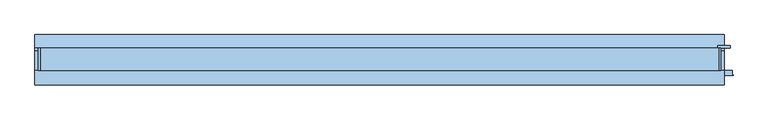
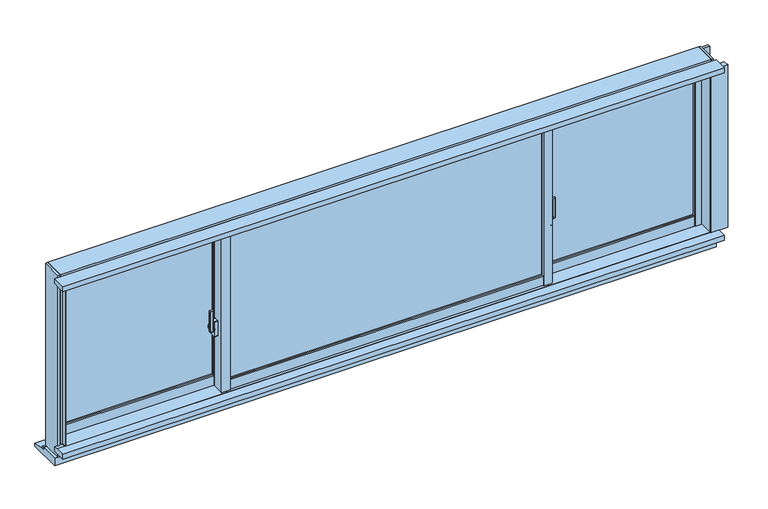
"""IFC4 building model written with IfcOpenShell, lengths in millimetres: window geometry, FNSⅡ100R_非防火_RC枠_単窓 : 両袖片引."""

from ifc_helpers import new_model, si_unit, point, frame, frame_2d, origin, place, context, project, spatial, polyline, circle_curve, trimmed, segment, composite_curve, outline, extrude, faceted_brep, source, transform, mapped, element, save
from ifc_brep_helpers import plane_surface, cylinder_surface, revolved_surface, advanced_brep


def window_a65863e0(model_context):
    return source(origin(), model_context, "Body", "SolidModel", [
        extrude(outline(polyline([(770.0, 27.0), (1468.0, 27.0), (1468.0, 21.0), (770.0, 21.0), (770.0, 27.0)])), frame((0.0, 0.0, 948.0), z_axis=(0.0, 0.0, 1.0), x_axis=(1.0, 0.0, 0.0)), (0.0, 0.0, 1.0), 712.0),
        extrude(outline(polyline([(770.0, 45.0), (1468.0, 45.0), (1468.0, 39.0), (770.0, 39.0), (770.0, 45.0)])), frame((0.0, 0.0, 948.0), z_axis=(0.0, 0.0, 1.0), x_axis=(1.0, 0.0, 0.0)), (0.0, 0.0, 1.0), 712.0),
        extrude(outline(composite_curve([segment(trimmed(circle_curve(frame_2d((791.0, -14.4)), 2.0), [point((789.0, -14.4))], [point((791.3606557, -12.4327869))], False, "CARTESIAN"), True, "CONTINUOUS"), segment(polyline([(791.3606557, -12.4327869), (802.3606557, -14.4494536)]), True, "CONTINUOUS"), segment(trimmed(circle_curve(frame_2d((802.0, -16.4166667)), 2.0), [point((802.3606557, -14.4494536))], [point((804.0, -16.4166667))], False, "CARTESIAN"), True, "CONTINUOUS"), segment(polyline([(804.0, -16.4166667), (804.0, -20.5833333)]), True, "CONTINUOUS"), segment(trimmed(circle_curve(frame_2d((802.0, -20.5833333)), 2.0), [point((804.0, -20.5833333))], [point((802.3606557, -22.5505464))], False, "CARTESIAN"), True, "CONTINUOUS"), segment(polyline([(802.3606557, -22.5505464), (791.3606557, -24.5672131)]), True, "CONTINUOUS"), segment(trimmed(circle_curve(frame_2d((791.0, -22.6)), 2.0), [point((791.3606557, -24.5672131))], [point((789.0, -22.6))], False, "CARTESIAN"), True, "CONTINUOUS"), segment(polyline([(789.0, -22.6), (789.0, -14.4)]), True, "CONTINUOUS")], self_intersect=False)), frame((0.0, 0.0, 1190.0), z_axis=(0.0, 0.0, 1.0), x_axis=(1.0, 0.0, 0.0)), (0.0, 0.0, 1.0), 100.0),
        advanced_brep(
        [(789.0, -12.3533883, 1179.3190372), (789.0, -13.5689255, 1186.2126915), (787.5, -13.5689255, 1186.2126915), (787.5, -12.092916, 1177.8418256), (795.5, -12.092916, 1177.8418256), (795.5, -12.3533883, 1179.3190372), (795.5, -10.1765715, 1221.7333311), (787.5, -10.1765715, 1221.7333311), (795.5, -10.5648001, 1220.2844424), (789.0, -10.5648001, 1220.2844424), (789.0, -12.3765334, 1213.5229616), (787.5, -12.3765334, 1213.5229616)],
        [
            (0, 1),
            (1, 2),
            (2, 3),
            (3, 4),
            (4, 5),
            (5, 0),
            (6, 4, circle_curve(frame((795.5, -16.0, 1200.0), z_axis=(-1.0, 0.0, 0.0), x_axis=(0.0, 0.25881904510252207, 0.965925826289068)), 22.5)),
            (3, 7, circle_curve(frame((787.5, -16.0, 1200.0), z_axis=(1.0, 0.0, 0.0), x_axis=(0.0, 0.25881904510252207, 0.965925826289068)), 22.5)),
            (7, 6),
            (8, 5, circle_curve(frame((795.5, -16.0, 1200.0), z_axis=(-1.0, 0.0, 0.0), x_axis=(0.0, 0.25881904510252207, 0.965925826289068)), 21.0)),
            (6, 8),
            (9, 0, circle_curve(frame((789.0, -16.0, 1200.0), z_axis=(-1.0, 0.0, 0.0), x_axis=(0.0, 0.25881904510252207, 0.965925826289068)), 21.0)),
            (8, 9),
            (9, 10),
            (10, 1, circle_curve(frame((789.0, -16.0, 1200.0), z_axis=(1.0, 0.0, 0.0), x_axis=(0.0, -1.0, 0.0)), 14.0)),
            (7, 11),
            (11, 10),
            (2, 11, circle_curve(frame((787.5, -16.0, 1200.0), z_axis=(-1.0, 0.0, 0.0), x_axis=(0.0, -1.0, 0.0)), 14.0)),
        ],
        [
            plane_surface(frame((793.5470497, -16.0, 1200.0), z_axis=(0.0, -0.9848077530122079, -0.17364817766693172), x_axis=(0.0, 0.17364817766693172, -0.9848077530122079))),
            cylinder_surface(frame((793.5470497, -16.0, 1200.0), z_axis=(1.0, 0.0, 0.0), x_axis=(0.0, 0.25881904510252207, 0.965925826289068)), 22.5),
            plane_surface(frame((795.5, -16.0, 1200.0), z_axis=(1.0, 0.0, 0.0), x_axis=(0.0, 0.25881904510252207, 0.965925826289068))),
            revolved_surface(polyline([(795.5, -10.564800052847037, 1220.2844423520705), (789.0, -10.564800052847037, 1220.2844423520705)]), (793.5470497, -16.0, 1200.0), (1.0, 0.0, 0.0)),
            plane_surface(frame((789.0, -16.0, 1200.0), z_axis=(1.0, 0.0, 0.0), x_axis=(0.0, 0.25881904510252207, 0.965925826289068))),
            plane_surface(frame((793.5470497, -16.0, 1200.0), z_axis=(0.0, -0.965925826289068, 0.25881904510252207), x_axis=(0.0, 0.25881904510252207, 0.965925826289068))),
            plane_surface(frame((787.5, -16.0, 1200.0), z_axis=(-1.0, 0.0, 0.0), x_axis=(0.0, 0.25881904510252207, 0.965925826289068))),
            cylinder_surface(frame((787.5, -16.0, 1200.0), z_axis=(1.0, 0.0, 0.0), x_axis=(0.0, -1.0, 0.0)), 14.0),
        ],
        [
            (0, [[1, 2, 3, 4, 5, 6]]),
            (1, [[7, -4, 8, 9]]),
            (2, [[10, -5, -7, 11]]),
            (3, [[12, -6, -10, 13]]),
            (4, [[14, 15, -1, -12]]),
            (5, [[16, 17, -14, -13, -11, -9]]),
            (6, [[-3, 18, -16, -8]]),
            (7, [[-17, -18, -2, -15]]),
        ],
    ),
        extrude(outline(composite_curve([segment(trimmed(circle_curve(frame_2d((-16.0, 1200.0)), 11.5), [point((-4.5, 1200.0))], [point((-27.5, 1200.0))], False, "CARTESIAN"), True, "CONTINUOUS"), segment(trimmed(circle_curve(frame_2d((-16.0, 1200.0)), 11.5), [point((-27.5, 1200.0))], [point((-4.5, 1200.0))], False, "CARTESIAN"), True, "CONTINUOUS")], self_intersect=False)), frame((785.0, 0.0, 0.0), z_axis=(1.0, 0.0, 0.0), x_axis=(0.0, 1.0, 0.0)), (0.0, 0.0, 1.0), 2.5),
        extrude(outline(composite_curve([segment(polyline([(-25.0, 1237.5), (-7.0, 1237.5)]), True, "CONTINUOUS"), segment(trimmed(circle_curve(frame_2d((-7.0, 1235.5)), 2.0), [point((-7.0, 1237.5))], [point((-5.0, 1235.5))], False, "CARTESIAN"), True, "CONTINUOUS"), segment(polyline([(-5.0, 1235.5), (-5.0, 1164.5)]), True, "CONTINUOUS"), segment(trimmed(circle_curve(frame_2d((-7.0, 1164.5)), 2.0), [point((-5.0, 1164.5))], [point((-7.0, 1162.5))], False, "CARTESIAN"), True, "CONTINUOUS"), segment(polyline([(-7.0, 1162.5), (-25.0, 1162.5)]), True, "CONTINUOUS"), segment(trimmed(circle_curve(frame_2d((-25.0, 1164.5)), 2.0), [point((-25.0, 1162.5))], [point((-27.0, 1164.5))], False, "CARTESIAN"), True, "CONTINUOUS"), segment(polyline([(-27.0, 1164.5), (-27.0, 1235.5)]), True, "CONTINUOUS"), segment(trimmed(circle_curve(frame_2d((-25.0, 1235.5)), 2.0), [point((-27.0, 1235.5))], [point((-25.0, 1237.5))], False, "CARTESIAN"), True, "CONTINUOUS")], self_intersect=False)), frame((770.0, 0.0, 0.0), z_axis=(1.0, 0.0, 0.0), x_axis=(0.0, 1.0, 0.0)), (0.0, 0.0, 1.0), 15.0),
        extrude(outline(composite_curve([segment(polyline([(-789.0, -14.4), (-789.0, -22.6)]), True, "CONTINUOUS"), segment(trimmed(circle_curve(frame_2d((-791.0, -22.6)), 2.0), [point((-789.0, -22.6))], [point((-791.3606557, -24.5672131))], False, "CARTESIAN"), True, "CONTINUOUS"), segment(polyline([(-791.3606557, -24.5672131), (-802.3606557, -22.5505464)]), True, "CONTINUOUS"), segment(trimmed(circle_curve(frame_2d((-802.0, -20.5833333)), 2.0), [point((-802.3606557, -22.5505464))], [point((-804.0, -20.5833333))], False, "CARTESIAN"), True, "CONTINUOUS"), segment(polyline([(-804.0, -20.5833333), (-804.0, -16.4166667)]), True, "CONTINUOUS"), segment(trimmed(circle_curve(frame_2d((-802.0, -16.4166667)), 2.0), [point((-804.0, -16.4166667))], [point((-802.3606557, -14.4494536))], False, "CARTESIAN"), True, "CONTINUOUS"), segment(polyline([(-802.3606557, -14.4494536), (-791.3606557, -12.4327869)]), True, "CONTINUOUS"), segment(trimmed(circle_curve(frame_2d((-791.0, -14.4)), 2.0), [point((-791.3606557, -12.4327869))], [point((-789.0, -14.4))], False, "CARTESIAN"), True, "CONTINUOUS")], self_intersect=False)), frame((0.0, 0.0, 1190.0), z_axis=(0.0, 0.0, 1.0), x_axis=(1.0, 0.0, 0.0)), (0.0, 0.0, 1.0), 100.0),
        advanced_brep(
        [(-789.0, -12.3533883, 1179.3190372), (-795.5, -12.3533883, 1179.3190372), (-795.5, -12.092916, 1177.8418256), (-787.5, -12.092916, 1177.8418256), (-787.5, -13.5689255, 1186.2126915), (-789.0, -13.5689255, 1186.2126915), (-795.5, -10.5648001, 1220.2844424), (-795.5, -10.1765715, 1221.7333311), (-787.5, -10.1765715, 1221.7333311), (-787.5, -12.3765334, 1213.5229616), (-789.0, -10.5648001, 1220.2844424), (-789.0, -12.3765334, 1213.5229616)],
        [
            (0, 1),
            (1, 2),
            (2, 3),
            (3, 4),
            (4, 5),
            (5, 0),
            (6, 7),
            (7, 2, circle_curve(frame((-795.5, -16.0, 1200.0), z_axis=(-1.0, 0.0, 0.0), x_axis=(0.0, 0.25881904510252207, 0.965925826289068)), 22.5)),
            (1, 6, circle_curve(frame((-795.5, -16.0, 1200.0), z_axis=(1.0, 0.0, 0.0), x_axis=(0.0, 0.25881904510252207, 0.965925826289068)), 21.0)),
            (3, 8, circle_curve(frame((-787.5, -16.0, 1200.0), z_axis=(1.0, 0.0, 0.0), x_axis=(0.0, 0.25881904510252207, 0.965925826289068)), 22.5)),
            (8, 9),
            (9, 4, circle_curve(frame((-787.5, -16.0, 1200.0), z_axis=(1.0, 0.0, 0.0), x_axis=(0.0, -1.0, 0.0)), 14.0)),
            (8, 7),
            (6, 10),
            (10, 11),
            (11, 9),
            (0, 10, circle_curve(frame((-789.0, -16.0, 1200.0), z_axis=(1.0, 0.0, 0.0), x_axis=(0.0, 0.25881904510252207, 0.965925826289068)), 21.0)),
            (5, 11, circle_curve(frame((-789.0, -16.0, 1200.0), z_axis=(-1.0, 0.0, 0.0), x_axis=(0.0, -1.0, 0.0)), 14.0)),
        ],
        [
            plane_surface(frame((-793.5470497, -16.0, 1200.0), z_axis=(0.0, -0.9848077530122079, -0.17364817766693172), x_axis=(0.0, 0.17364817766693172, -0.9848077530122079))),
            plane_surface(frame((-795.5, -16.0, 1200.0), z_axis=(-1.0, 0.0, 0.0), x_axis=(0.0, 0.25881904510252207, 0.965925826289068))),
            plane_surface(frame((-787.5, -16.0, 1200.0), z_axis=(1.0, 0.0, 0.0), x_axis=(0.0, 0.25881904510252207, 0.965925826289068))),
            plane_surface(frame((-793.5470497, -16.0, 1200.0), z_axis=(0.0, -0.965925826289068, 0.25881904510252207), x_axis=(0.0, 0.25881904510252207, 0.965925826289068))),
            cylinder_surface(frame((-793.5470497, -16.0, 1200.0), z_axis=(-1.0, 0.0, 0.0), x_axis=(0.0, 0.25881904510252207, 0.965925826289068)), 22.5),
            revolved_surface(polyline([(-795.5, -10.564800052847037, 1220.2844423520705), (-789.0, -10.564800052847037, 1220.2844423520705)]), (-793.5470497, -16.0, 1200.0), (-1.0, 0.0, 0.0)),
            plane_surface(frame((-789.0, -16.0, 1200.0), z_axis=(-1.0, 0.0, 0.0), x_axis=(0.0, 0.25881904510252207, 0.965925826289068))),
            cylinder_surface(frame((-787.5, -16.0, 1200.0), z_axis=(-1.0, 0.0, 0.0), x_axis=(0.0, -1.0, 0.0)), 14.0),
        ],
        [
            (0, [[1, 2, 3, 4, 5, 6]]),
            (1, [[7, 8, -2, 9]]),
            (2, [[10, 11, 12, -4]]),
            (3, [[13, -7, 14, 15, 16, -11]]),
            (4, [[-13, -10, -3, -8]]),
            (5, [[-14, -9, -1, 17]]),
            (6, [[-17, -6, 18, -15]]),
            (7, [[-18, -5, -12, -16]]),
        ],
    ),
        extrude(outline(composite_curve([segment(trimmed(circle_curve(frame_2d((-16.0, 1200.0)), 11.5), [point((-4.5, 1200.0))], [point((-27.5, 1200.0))], False, "CARTESIAN"), True, "CONTINUOUS"), segment(trimmed(circle_curve(frame_2d((-16.0, 1200.0)), 11.5), [point((-27.5, 1200.0))], [point((-4.5, 1200.0))], False, "CARTESIAN"), True, "CONTINUOUS")], self_intersect=False)), frame((-787.5, 0.0, 0.0), z_axis=(1.0, 0.0, 0.0), x_axis=(0.0, 1.0, 0.0)), (0.0, 0.0, 1.0), 2.5),
        extrude(outline(composite_curve([segment(polyline([(-25.0, 1237.5), (-7.0, 1237.5)]), True, "CONTINUOUS"), segment(trimmed(circle_curve(frame_2d((-7.0, 1235.5)), 2.0), [point((-7.0, 1237.5))], [point((-5.0, 1235.5))], False, "CARTESIAN"), True, "CONTINUOUS"), segment(polyline([(-5.0, 1235.5), (-5.0, 1164.5)]), True, "CONTINUOUS"), segment(trimmed(circle_curve(frame_2d((-7.0, 1164.5)), 2.0), [point((-5.0, 1164.5))], [point((-7.0, 1162.5))], False, "CARTESIAN"), True, "CONTINUOUS"), segment(polyline([(-7.0, 1162.5), (-25.0, 1162.5)]), True, "CONTINUOUS"), segment(trimmed(circle_curve(frame_2d((-25.0, 1164.5)), 2.0), [point((-25.0, 1162.5))], [point((-27.0, 1164.5))], False, "CARTESIAN"), True, "CONTINUOUS"), segment(polyline([(-27.0, 1164.5), (-27.0, 1235.5)]), True, "CONTINUOUS"), segment(trimmed(circle_curve(frame_2d((-25.0, 1235.5)), 2.0), [point((-27.0, 1235.5))], [point((-25.0, 1237.5))], False, "CARTESIAN"), True, "CONTINUOUS")], self_intersect=False)), frame((-785.0, 0.0, 0.0), z_axis=(1.0, 0.0, 0.0), x_axis=(0.0, 1.0, 0.0)), (0.0, 0.0, 1.0), 15.0),
        extrude(outline(polyline([(-730.0, -31.0), (730.0, -31.0), (730.0, -37.0), (-730.0, -37.0), (-730.0, -31.0)])), frame((0.0, 0.0, 948.0), z_axis=(0.0, 0.0, 1.0), x_axis=(1.0, 0.0, 0.0)), (0.0, 0.0, 1.0), 712.0),
        extrude(outline(polyline([(-730.0, -13.0), (730.0, -13.0), (730.0, -19.0), (-730.0, -19.0), (-730.0, -13.0)])), frame((0.0, 0.0, 948.0), z_axis=(0.0, 0.0, 1.0), x_axis=(1.0, 0.0, 0.0)), (0.0, 0.0, 1.0), 712.0),
        extrude(outline(polyline([(-1468.0, 27.0), (-770.0, 27.0), (-770.0, 21.0), (-1468.0, 21.0), (-1468.0, 27.0)])), frame((0.0, 0.0, 948.0), z_axis=(0.0, 0.0, 1.0), x_axis=(1.0, 0.0, 0.0)), (0.0, 0.0, 1.0), 712.0),
        extrude(outline(polyline([(-1468.0, 45.0), (-770.0, 45.0), (-770.0, 39.0), (-1468.0, 39.0), (-1468.0, 45.0)])), frame((0.0, 0.0, 948.0), z_axis=(0.0, 0.0, 1.0), x_axis=(1.0, 0.0, 0.0)), (0.0, 0.0, 1.0), 712.0),
        faceted_brep([(-1500.0, 24.0, 1700.0), (-1489.5, 24.0, 1700.0), (-1489.5, 11.0, 1700.0), (-1468.0, 11.0, 1700.0), (-1468.0, 53.0, 1700.0), (-1500.0, 53.0, 1700.0), (-1500.0, 24.0, 860.0), (-1468.0, 24.0, 860.0), (-1468.0, 24.0, 900.0), (-1489.5, 24.0, 900.0), (-1500.0, 53.0, 860.0), (-1468.0, 53.0, 860.0), (-1489.5, 11.0, 900.0), (-1468.0, 11.0, 900.0)], [[[0, 1, 2, 3, 4, 5]], [[1, 0, 6, 7, 8, 9]], [[7, 6, 10, 11]], [[2, 1, 9, 12]], [[3, 2, 12, 13]], [[4, 3, 13, 8, 7, 11]], [[5, 4, 11, 10]], [[6, 0, 5, 10]], [[9, 8, 13, 12]]]),
        faceted_brep([(1500.0, 24.0, 1700.0), (1500.0, 53.0, 1700.0), (1468.0, 53.0, 1700.0), (1468.0, 11.0, 1700.0), (1489.5, 11.0, 1700.0), (1489.5, 24.0, 1700.0), (1489.5, 11.0, 860.0), (1489.5, 24.0, 860.0), (1500.0, 24.0, 860.0), (1468.0, 11.0, 860.0), (1468.0, 24.0, 860.0), (1468.0, 53.0, 860.0), (1500.0, 53.0, 860.0), (1468.0, 11.0, 900.0)], [[[0, 1, 2, 3, 4, 5]], [[5, 4, 6, 7]], [[8, 7, 6, 9, 10, 11, 12]], [[1, 0, 8, 12]], [[2, 1, 12, 11]], [[3, 2, 11, 10, 9, 13]], [[4, 3, 13, 9, 6]], [[0, 5, 7, 8]]]),
        faceted_brep([(-751.8, 10.5, 1700.0), (-770.0, 10.5, 1700.0), (-770.0, 10.5, 900.0), (-751.8, 10.5, 900.0), (-751.8, -1.9, 1700.0), (-751.8, -1.9, 900.0), (-730.0, 24.0, 900.0), (-770.0, 24.0, 900.0), (-770.0, 24.0, 860.0), (-730.0, 24.0, 860.0), (-730.0, -1.9, 1700.0), (-730.0, 53.0, 1700.0), (-770.0, 53.0, 1700.0), (-770.0, 53.0, 860.0), (-730.0, 53.0, 860.0), (-730.0, -1.9, 900.0)], [[[0, 1, 2, 3]], [[4, 0, 3, 5]], [[6, 7, 8, 9]], [[1, 0, 4, 10, 11, 12]], [[13, 14, 9, 8]], [[10, 4, 5, 15]], [[11, 10, 15, 6, 9, 14]], [[12, 11, 14, 13]], [[1, 12, 13, 8, 7, 2]], [[7, 6, 15, 5, 3, 2]]]),
        faceted_brep([(770.0, 24.0, 900.0), (730.0, 24.0, 900.0), (730.0, 24.0, 860.0), (770.0, 24.0, 860.0), (770.0, 53.0, 1700.0), (770.0, 10.5, 1700.0), (770.0, 10.5, 900.0), (770.0, 53.0, 860.0), (730.0, 53.0, 1700.0), (730.0, 53.0, 860.0), (730.0, -1.9, 1700.0), (751.8, -1.9, 1700.0), (751.8, 10.5, 1700.0), (751.8, 10.5, 900.0), (751.8, -1.9, 900.0), (730.0, -1.9, 900.0)], [[[0, 1, 2, 3]], [[4, 5, 6, 0, 3, 7]], [[8, 4, 7, 9]], [[5, 4, 8, 10, 11, 12]], [[9, 7, 3, 2]], [[1, 0, 6, 13, 14, 15]], [[10, 8, 9, 2, 1, 15]], [[11, 10, 15, 14]], [[12, 11, 14, 13]], [[5, 12, 13, 6]]]),
        extrude(outline(polyline([(-770.0, -1.9), (-765.0, -1.9), (-765.0, -47.0), (-735.0, -47.0), (-735.0, -43.0), (-730.0, -43.0), (-730.0, -55.0), (-770.0, -55.0), (-770.0, -1.9)])), frame((0.0, 0.0, 900.0), z_axis=(0.0, 0.0, 1.0), x_axis=(1.0, 0.0, 0.0)), (0.0, 0.0, 1.0), 800.0),
        extrude(outline(polyline([(770.0, -1.9), (770.0, -55.0), (730.0, -55.0), (730.0, -43.0), (735.0, -43.0), (735.0, -47.0), (765.0, -47.0), (765.0, -1.9), (770.0, -1.9)])), frame((0.0, 0.0, 900.0), z_axis=(0.0, 0.0, 1.0), x_axis=(1.0, 0.0, 0.0)), (0.0, 0.0, 1.0), 800.0),
        extrude(outline(polyline([(-765.0, -1.9), (-730.0, -1.9), (-730.0, -43.0), (-735.0, -43.0), (-735.0, -47.0), (-765.0, -47.0), (-765.0, -1.9)])), frame((0.0, 0.0, 900.0), z_axis=(0.0, 0.0, 1.0), x_axis=(1.0, 0.0, 0.0)), (0.0, 0.0, 1.0), 800.0),
        extrude(outline(polyline([(765.0, -1.9), (765.0, -47.0), (735.0, -47.0), (735.0, -43.0), (730.0, -43.0), (730.0, -1.9), (765.0, -1.9)])), frame((0.0, 0.0, 900.0), z_axis=(0.0, 0.0, 1.0), x_axis=(1.0, 0.0, 0.0)), (0.0, 0.0, 1.0), 800.0),
        extrude(outline(polyline([(-751.8, 10.5), (-751.8, 3.0), (-770.0, 3.0), (-770.0, 10.5), (-751.8, 10.5)])), frame((0.0, 0.0, 900.0), z_axis=(0.0, 0.0, 1.0), x_axis=(1.0, 0.0, 0.0)), (0.0, 0.0, 1.0), 800.0),
        extrude(outline(polyline([(751.8, 10.5), (770.0, 10.5), (770.0, 3.0), (751.8, 3.0), (751.8, 10.5)])), frame((0.0, 0.0, 900.0), z_axis=(0.0, 0.0, 1.0), x_axis=(1.0, 0.0, 0.0)), (0.0, 0.0, 1.0), 800.0),
        extrude(outline(polyline([(-1497.0, 24.0), (-1489.5, 24.0), (-1489.5, 11.0), (-1468.0, 11.0), (-1468.0, 3.0), (-1497.0, 3.0), (-1497.0, 24.0)])), frame((0.0, 0.0, 900.0), z_axis=(0.0, 0.0, 1.0), x_axis=(1.0, 0.0, 0.0)), (0.0, 0.0, 1.0), 800.0),
        extrude(outline(polyline([(1497.0, 24.0), (1497.0, 3.0), (1468.0, 3.0), (1468.0, 11.0), (1489.5, 11.0), (1489.5, 24.0), (1497.0, 24.0)])), frame((0.0, 0.0, 900.0), z_axis=(0.0, 0.0, 1.0), x_axis=(1.0, 0.0, 0.0)), (0.0, 0.0, 1.0), 800.0),
        extrude(outline(polyline([(5.0, 948.0), (13.0, 948.0), (13.0, 925.5), (24.0, 925.5), (24.0, 900.0), (5.0, 900.0), (5.0, 948.0)])), frame((770.0, 0.0, 0.0), z_axis=(1.0, 0.0, 0.0), x_axis=(0.0, 1.0, 0.0)), (0.0, 0.0, 1.0), 698.0),
        extrude(outline(polyline([(53.0, 860.0), (24.0, 860.0), (24.0, 925.5), (13.0, 925.5), (13.0, 948.0), (53.0, 948.0), (53.0, 860.0)])), frame((770.0, 0.0, 0.0), z_axis=(1.0, 0.0, 0.0), x_axis=(0.0, 1.0, 0.0)), (0.0, 0.0, 1.0), 698.0),
        extrude(outline(polyline([(-53.0, 903.0), (-53.0, 948.0), (-45.0, 948.0), (-45.0, 925.5), (-34.0, 925.5), (-34.0, 903.0), (-53.0, 903.0)])), frame((-730.0, 0.0, 0.0), z_axis=(1.0, 0.0, 0.0), x_axis=(0.0, 1.0, 0.0)), (0.0, 0.0, 1.0), 1460.0),
        extrude(outline(polyline([(-5.0, 900.0), (-34.0, 900.0), (-34.0, 925.5), (-45.0, 925.5), (-45.0, 948.0), (-5.0, 948.0), (-5.0, 900.0)])), frame((-730.0, 0.0, 0.0), z_axis=(1.0, 0.0, 0.0), x_axis=(0.0, 1.0, 0.0)), (0.0, 0.0, 1.0), 1460.0),
        extrude(outline(polyline([(5.0, 948.0), (13.0, 948.0), (13.0, 925.5), (24.0, 925.5), (24.0, 900.0), (5.0, 900.0), (5.0, 948.0)])), frame((-1468.0, 0.0, 0.0), z_axis=(1.0, 0.0, 0.0), x_axis=(0.0, 1.0, 0.0)), (0.0, 0.0, 1.0), 698.0),
        extrude(outline(polyline([(53.0, 860.0), (24.0, 860.0), (24.0, 925.5), (13.0, 925.5), (13.0, 948.0), (53.0, 948.0), (53.0, 860.0)])), frame((-1468.0, 0.0, 0.0), z_axis=(1.0, 0.0, 0.0), x_axis=(0.0, 1.0, 0.0)), (0.0, 0.0, 1.0), 698.0),
        extrude(outline(polyline([(53.0, 1700.0), (53.0, 1660.0), (13.0, 1660.0), (13.0, 1680.5), (26.0, 1680.5), (26.0, 1700.0), (53.0, 1700.0)])), frame((770.0, 0.0, 0.0), z_axis=(1.0, 0.0, 0.0), x_axis=(0.0, 1.0, 0.0)), (0.0, 0.0, 1.0), 698.0),
        extrude(outline(polyline([(26.0, 1680.5), (13.0, 1680.5), (13.0, 1660.0), (5.0, 1660.0), (5.0, 1700.0), (26.0, 1700.0), (26.0, 1680.5)])), frame((770.0, 0.0, 0.0), z_axis=(1.0, 0.0, 0.0), x_axis=(0.0, 1.0, 0.0)), (0.0, 0.0, 1.0), 698.0),
        extrude(outline(polyline([(-32.0, 1680.5), (-45.0, 1680.5), (-45.0, 1660.0), (-53.0, 1660.0), (-53.0, 1700.0), (-32.0, 1700.0), (-32.0, 1680.5)])), frame((-730.0, 0.0, 0.0), z_axis=(1.0, 0.0, 0.0), x_axis=(0.0, 1.0, 0.0)), (0.0, 0.0, 1.0), 1460.0),
        extrude(outline(polyline([(-5.0, 1700.0), (-5.0, 1660.0), (-45.0, 1660.0), (-45.0, 1680.5), (-32.0, 1680.5), (-32.0, 1700.0), (-5.0, 1700.0)])), frame((-730.0, 0.0, 0.0), z_axis=(1.0, 0.0, 0.0), x_axis=(0.0, 1.0, 0.0)), (0.0, 0.0, 1.0), 1460.0),
        extrude(outline(polyline([(26.0, 1680.5), (13.0, 1680.5), (13.0, 1660.0), (5.0, 1660.0), (5.0, 1700.0), (26.0, 1700.0), (26.0, 1680.5)])), frame((-1468.0, 0.0, 0.0), z_axis=(1.0, 0.0, 0.0), x_axis=(0.0, 1.0, 0.0)), (0.0, 0.0, 1.0), 698.0),
        extrude(outline(polyline([(53.0, 1700.0), (53.0, 1660.0), (13.0, 1660.0), (13.0, 1680.5), (26.0, 1680.5), (26.0, 1700.0), (53.0, 1700.0)])), frame((-1468.0, 0.0, 0.0), z_axis=(1.0, 0.0, 0.0), x_axis=(0.0, 1.0, 0.0)), (0.0, 0.0, 1.0), 698.0),
        faceted_brep([(-747.5, -36.0, 900.0), (-747.5, -7.7, 900.0), (-747.5, -7.7, 884.0), (-747.5, -36.0, 884.0), (1515.0, 55.0, 840.0), (1515.0, 55.0, 849.0), (1515.0, 21.0, 849.0), (1515.0, 21.0, 884.0), (1515.0, -45.0, 884.0), (1515.0, -45.0, 840.0), (-1515.0, -45.0, 884.0), (-1515.0, -45.0, 840.0), (-1515.0, 55.0, 840.0), (-1515.0, 55.0, 849.0), (-1515.0, 21.0, 884.0), (747.5, -7.7, 884.0), (747.5, -36.0, 884.0), (-1515.0, 21.0, 849.0), (747.5, -36.0, 900.0), (747.5, -7.7, 900.0)], [[[0, 1, 2, 3]], [[4, 5, 6, 7, 8, 9]], [[9, 8, 10, 11]], [[5, 4, 12, 13]], [[8, 7, 14, 10], [15, 16, 3, 2]], [[7, 6, 17, 14]], [[6, 5, 13, 17]], [[4, 9, 11, 12]], [[12, 11, 10, 14, 17, 13]], [[18, 16, 15, 19]], [[16, 18, 0, 3]], [[19, 15, 2, 1]], [[18, 19, 1, 0]]]),
        extrude(outline(polyline([(-36.0, 884.0), (-45.0, 884.0), (-45.0, 897.0), (-65.0, 897.0), (-65.0, 900.0), (-36.0, 900.0), (-36.0, 884.0)])), frame((-747.5, 0.0, 0.0), z_axis=(1.0, 0.0, 0.0), x_axis=(0.0, 1.0, 0.0)), (0.0, 0.0, 1.0), 1495.0),
        extrude(outline(polyline([(-45.0, 884.0), (-45.0, 897.0), (-65.0, 897.0), (-65.0, 900.0), (21.0, 900.0), (21.0, 884.0), (-45.0, 884.0)])), frame((747.5, 0.0, 0.0), z_axis=(1.0, 0.0, 0.0), x_axis=(0.0, 1.0, 0.0)), (0.0, 0.0, 1.0), 752.5),
        extrude(outline(polyline([(-45.0, 884.0), (-45.0, 897.0), (-65.0, 897.0), (-65.0, 900.0), (21.0, 900.0), (21.0, 884.0), (-45.0, 884.0)])), frame((-1503.0, 0.0, 0.0), z_axis=(1.0, 0.0, 0.0), x_axis=(0.0, 1.0, 0.0)), (0.0, 0.0, 1.0), 755.5),
        faceted_brep([(1515.0, 55.0, 1700.0), (1515.0, 55.0, 1735.0), (1515.0, -45.0, 1735.0), (1515.0, -45.0, 1725.0), (1515.0, 25.3, 1725.0), (1515.0, 25.3, 1700.0), (-1515.0, 55.0, 1700.0), (-1515.0, 25.3, 1700.0), (-1515.0, 25.3, 1725.0), (-1515.0, -45.0, 1725.0), (-1515.0, -45.0, 1735.0), (-1515.0, 55.0, 1735.0), (-747.5, 25.3, 1725.0), (-747.5, -32.0, 1725.0), (747.5, -32.0, 1725.0), (747.5, 25.3, 1725.0), (747.5, 25.3, 1700.0), (-747.5, 25.3, 1700.0), (747.5, -32.0, 1700.0), (-747.5, -32.0, 1700.0)], [[[0, 1, 2, 3, 4, 5]], [[6, 7, 8, 9, 10, 11]], [[4, 3, 9, 8, 12, 13, 14, 15]], [[5, 4, 15, 16]], [[8, 7, 17, 12]], [[0, 5, 16, 18, 19, 17, 7, 6]], [[1, 0, 6, 11]], [[2, 1, 11, 10]], [[3, 2, 10, 9]], [[14, 18, 16, 15]], [[17, 19, 13, 12]], [[18, 14, 13, 19]]]),
        extrude(outline(polyline([(-32.0, 1725.0), (-32.0, 1700.0), (-65.0, 1700.0), (-65.0, 1703.0), (-45.0, 1703.0), (-45.0, 1725.0), (-32.0, 1725.0)])), frame((-747.5, 0.0, 0.0), z_axis=(1.0, 0.0, 0.0), x_axis=(0.0, 1.0, 0.0)), (0.0, 0.0, 1.0), 1495.0),
        extrude(outline(polyline([(25.3, 1700.0), (-65.0, 1700.0), (-65.0, 1703.0), (-45.0, 1703.0), (-45.0, 1725.0), (25.3, 1725.0), (25.3, 1700.0)])), frame((747.5, 0.0, 0.0), z_axis=(1.0, 0.0, 0.0), x_axis=(0.0, 1.0, 0.0)), (0.0, 0.0, 1.0), 752.5),
        extrude(outline(polyline([(25.3, 1700.0), (-65.0, 1700.0), (-65.0, 1703.0), (-45.0, 1703.0), (-45.0, 1725.0), (25.3, 1725.0), (25.3, 1700.0)])), frame((-1500.0, 0.0, 0.0), z_axis=(1.0, 0.0, 0.0), x_axis=(0.0, 1.0, 0.0)), (0.0, 0.0, 1.0), 752.5),
        faceted_brep([(1500.0, -45.0, 1720.0), (1515.0, -45.0, 1720.0), (1515.0, 21.0, 1720.0), (1500.0, 21.0, 1720.0), (1500.0, -65.0, 900.0), (1503.0, -65.0, 900.0), (1503.0, -65.0, 1703.0), (1500.0, -65.0, 1703.0), (1500.0, 21.0, 900.0), (1515.0, 21.0, 900.0), (1515.0, -45.0, 900.0), (1503.0, -45.0, 900.0), (1503.0, -45.0, 1703.0), (1500.0, -45.0, 1703.0)], [[[0, 1, 2, 3]], [[4, 5, 6, 7]], [[4, 8, 9, 10, 11, 5]], [[5, 11, 12, 6]], [[0, 13, 12, 11, 10, 1]], [[2, 1, 10, 9]], [[3, 2, 9, 8]], [[8, 4, 7, 13, 0, 3]], [[12, 13, 7, 6]]]),
        faceted_brep([(-1515.0, -45.0, 900.0), (-1503.0, -45.0, 900.0), (-1503.0, -45.0, 1703.0), (-1500.0, -45.0, 1703.0), (-1500.0, -45.0, 1720.0), (-1515.0, -45.0, 1720.0), (-1503.0, -65.0, 900.0), (-1500.0, -65.0, 900.0), (-1500.0, -65.0, 1703.0), (-1503.0, -65.0, 1703.0), (-1500.0, 21.0, 1720.0), (-1515.0, 21.0, 1720.0), (-1515.0, 21.0, 900.0), (-1500.0, 21.0, 900.0)], [[[0, 1, 2, 3, 4, 5]], [[6, 7, 8, 9]], [[5, 4, 10, 11]], [[0, 12, 13, 7, 6, 1]], [[1, 6, 9, 2]], [[7, 13, 10, 4, 3, 8]], [[11, 10, 13, 12]], [[0, 5, 11, 12]], [[3, 2, 9, 8]]]),
        faceted_brep([(-1525.0, 55.0, 1735.0), (-1515.0, 55.0, 1735.0), (-1515.0, 55.0, 1700.0), (-1500.0, 55.0, 1700.0), (-1500.0, 55.0, 849.0), (-1515.0, 55.0, 849.0), (-1515.0, 55.0, 840.0), (-1525.0, 55.0, 840.0), (-1525.0, -45.0, 1735.0), (-1515.0, -45.0, 1735.0), (-1515.0, -45.0, 840.0), (-1525.0, -45.0, 840.0), (-1515.0, 21.0, 849.0), (-1515.0, 21.0, 1700.0), (-1500.0, 21.0, 1700.0), (-1500.0, 21.0, 849.0)], [[[0, 1, 2, 3, 4, 5, 6, 7]], [[0, 8, 9, 1]], [[7, 6, 10, 11]], [[8, 0, 7, 11]], [[9, 8, 11, 10]], [[1, 9, 10, 6, 5, 12, 13, 2]], [[3, 2, 13, 14]], [[4, 15, 12, 5]], [[14, 13, 12, 15]], [[3, 14, 15, 4]]]),
        faceted_brep([(1515.0, 21.0, 1700.0), (1500.0, 21.0, 1700.0), (1500.0, 21.0, 849.0), (1515.0, 21.0, 849.0), (1515.0, -45.0, 1735.0), (1525.0, -45.0, 1735.0), (1525.0, 55.0, 1735.0), (1515.0, 55.0, 1735.0), (1515.0, -45.0, 840.0), (1515.0, 55.0, 840.0), (1525.0, 55.0, 840.0), (1525.0, -45.0, 840.0), (1500.0, 55.0, 1700.0), (1500.0, 55.0, 849.0), (1515.0, 55.0, 1700.0), (1515.0, 55.0, 849.0)], [[[0, 1, 2, 3]], [[4, 5, 6, 7]], [[8, 9, 10, 11]], [[1, 12, 13, 2]], [[1, 0, 14, 12]], [[2, 13, 15, 3]], [[5, 4, 8, 11]], [[6, 5, 11, 10]], [[7, 6, 10, 9, 15, 13, 12, 14]], [[4, 7, 14, 0, 3, 15, 9, 8]]]),
        extrude(outline(polyline([(-110.0, 900.0), (-65.0, 900.0), (-65.0, 897.0), (-45.0, 897.0), (-45.0, 875.0), (-110.0, 875.0), (-110.0, 900.0)])), frame((-1540.0, 0.0, 0.0), z_axis=(1.0, 0.0, 0.0), x_axis=(0.0, 1.0, 0.0)), (0.0, 0.0, 1.0), 3080.0),
        extrude(outline(polyline([(45.0, 840.0), (55.0, 840.0), (55.0, 828.4285714), (45.0, 830.0), (45.0, 840.0)])), frame((-1540.0, 0.0, 0.0), z_axis=(1.0, 0.0, 0.0), x_axis=(0.0, 1.0, 0.0)), (0.0, 0.0, 1.0), 3080.0),
        extrude(outline(polyline([(-45.0, 804.0), (-45.0, 840.0), (45.0, 840.0), (45.0, 830.0), (115.0, 819.0), (115.0, 804.0), (-45.0, 804.0)])), frame((-1540.0, 0.0, 0.0), z_axis=(1.0, 0.0, 0.0), x_axis=(0.0, 1.0, 0.0)), (0.0, 0.0, 1.0), 3080.0),
        extrude(outline(polyline([(1503.0, -65.0), (1503.0, -45.0), (1577.0, -45.0), (1577.0, -65.0), (1580.0, -65.0), (1580.0, -67.5), (1500.0, -67.5), (1500.0, -65.0), (1503.0, -65.0)])), frame((0.0, 0.0, 900.0), z_axis=(0.0, 0.0, 1.0), x_axis=(1.0, 0.0, 0.0)), (0.0, 0.0, 1.0), 800.0),
        extrude(outline(polyline([(1567.5, 55.0), (1512.5, 55.0), (1512.5, 67.0), (1567.5, 67.0), (1567.5, 55.0)])), frame((0.0, 0.0, 840.0), z_axis=(0.0, 0.0, 1.0), x_axis=(1.0, 0.0, 0.0)), (0.0, 0.0, 1.0), 880.0),
        extrude(outline(polyline([(-110.0, 1725.0), (-45.0, 1725.0), (-45.0, 1703.0), (-65.0, 1703.0), (-65.0, 1700.0), (-110.0, 1700.0), (-110.0, 1725.0)])), frame((-1540.0, 0.0, 0.0), z_axis=(1.0, 0.0, 0.0), x_axis=(0.0, 1.0, 0.0)), (0.0, 0.0, 1.0), 3080.0),
    ])


if __name__ == "__main__":
    model = new_model("IFC4")
    model_context = context("Model", 3, world=origin())
    ifc_project = project(units=[si_unit("LENGTHUNIT", "METRE", prefix="MILLI")], contexts=[model_context])
    site = spatial("IfcSite", under=ifc_project)
    building = spatial("IfcBuilding", under=site)
    placement = place(None, origin())
    window_shape = window_a65863e0(model_context)
    element("IfcWindow", 1, ObjectType="FNSⅡ100R_非防火_RC枠_単窓 : 両袖片引", at=placement, inside=building, context=model_context, shape_type="MappedRepresentation", body=[
        mapped(window_shape, transform((0.0, 0.0, 0.0), x_axis=(1.0, 0.0, 0.0), y_axis=(0.0, 1.0, 0.0), z_axis=(0.0, 0.0, 1.0))),
    ])
    save(model, "model.ifc")
